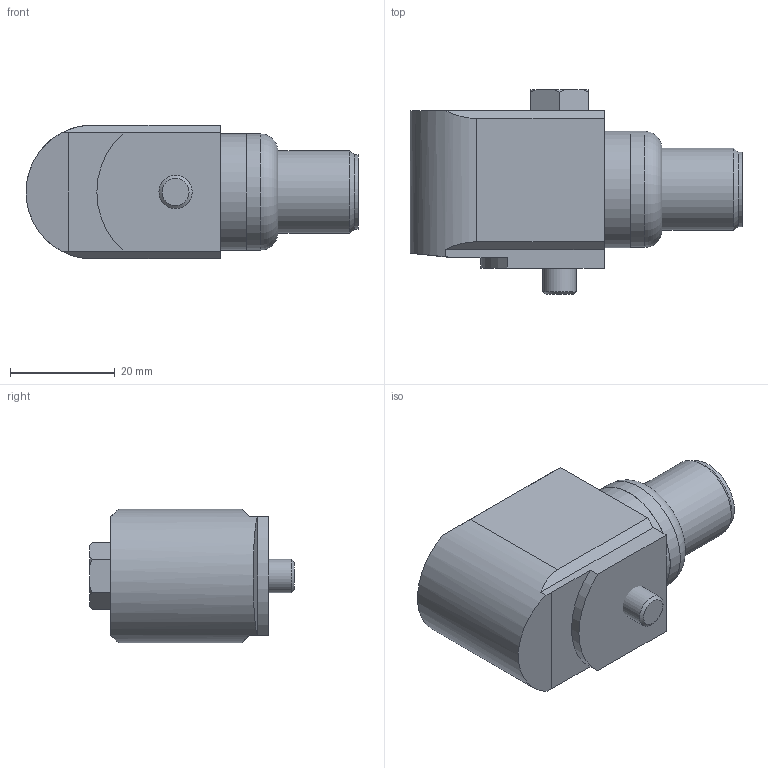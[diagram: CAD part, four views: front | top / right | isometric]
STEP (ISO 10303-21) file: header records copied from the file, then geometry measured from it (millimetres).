
FILE_DESCRIPTION(/* description */ (''),/* implementation_level */ '2;1');
FILE_NAME(/* name */ 'Z:\Engineering\Drawings\3D Library\Assemblies\Website\Premium Side\HS-150 Side 2 Pin MS\HS-150SXXX5002.stp',/* time_stamp */ '2023-03-12T13:07:01+00:00',/* author */ ('Ricardo.Peneda'),/* organization */ (''),/* preprocessor_version */ 'ST-DEVELOPER v18.1',/* originating_system */ 'Autodesk Inventor 2021',/* authorisation */ '');
FILE_SCHEMA (('AUTOMOTIVE_DESIGN { 1 0 10303 214 3 1 1 }'));
Length unit declared in the file: inch
Products named in the file (1): HS-150SXXX5002_Shrinkwrap_1
Bounding box: 63.27 x 39 x 25.5 mm (x, y, z)
Volume: 26865.3 mm3; surface area: 10941.2 mm2
Topology: 4 solids, 4 shells, 63 faces, 157 edges, 112 vertices
Faces by surface type: plane 35, cylinder 17, cone 10, torus 1
Full cylindrical faces by diameter (mm): 4.5 x1, 5.359 x1, 6.35 x1, 10 x1, 11.37 x1, 13 x1, 14.28 x1, 14.95 x1, 15.34 x1, 15.35 x1, 15.7 x1, 19 x1, 20 x1, 22.2 x2
Entity records: 2048 total; most frequent: CARTESIAN_POINT 357, DIRECTION 350, ORIENTED_EDGE 314, EDGE_CURVE 157, AXIS2_PLACEMENT_3D 141, VERTEX_POINT 112, EDGE_LOOP 75, CIRCLE 72
